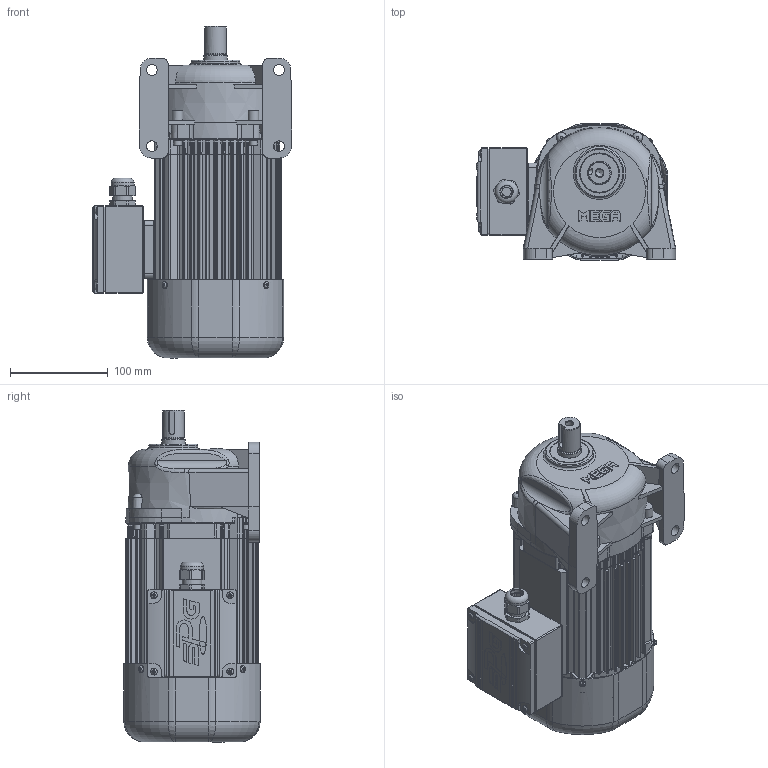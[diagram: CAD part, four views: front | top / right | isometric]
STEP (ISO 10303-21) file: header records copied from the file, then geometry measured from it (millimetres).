
FILE_DESCRIPTION(/* description */ (''),/* implementation_level */ '2;1');
FILE_NAME(/* name */ 'Z:\동력 3D 파일\PML88-(5~30)-MC(D)040[ ]L_(3D).stp',/* time_stamp */ '2021-08-27T16:06:53+09:00',/* author */ ('jaebok'),/* organization */ (''),/* preprocessor_version */ 'ST-DEVELOPER v18.1',/* originating_system */ 'Autodesk Inventor 2022',/* authorisation */ '');
FILE_SCHEMA (('AUTOMOTIVE_DESIGN { 1 0 10303 214 3 1 1 }'));
Products named in the file (1): 부품4
Bounding box: 204 x 139.4 x 339.5 mm (x, y, z)
Volume: 1544379.8 mm3; surface area: 567863.9 mm2
Topology: 2 solids, 33 shells, 3256 faces, 8269 edges, 5046 vertices
Faces by surface type: plane 1189, cylinder 926, bspline 657, torus 238, cone 174, sphere 72
Full cylindrical faces by diameter (mm): 1.5 x2, 2 x5, 3 x8, 3.242 x4, 3.25 x1, 3.3 x4, 3.6 x4, 3.8 x3, 4 x25, 4.134 x4, 4.2 x8, 5 x29, 5.5 x4, 5.8 x2, 5.9 x3, 6 x18, 6.4 x1, 6.5 x6, 7 x12, 7.9 x6, 8 x9, 8.5 x5, 8.7 x1, 10 x1, 11 x4, 12.5 x1, 14 x1, 15 x1, 15.5 x1, 18 x1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
Entity records: 126359 total; most frequent: CARTESIAN_POINT 48519, ORIENTED_EDGE 16198, DIRECTION 14851, EDGE_CURVE 8099, AXIS2_PLACEMENT_3D 5886, VERTEX_POINT 5042, EDGE_LOOP 3525, FACE_OUTER_BOUND 3256
